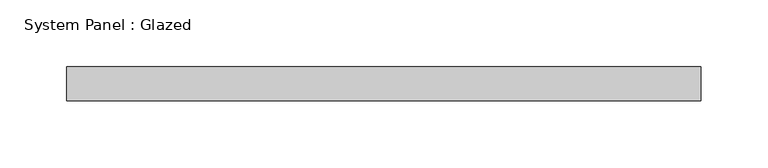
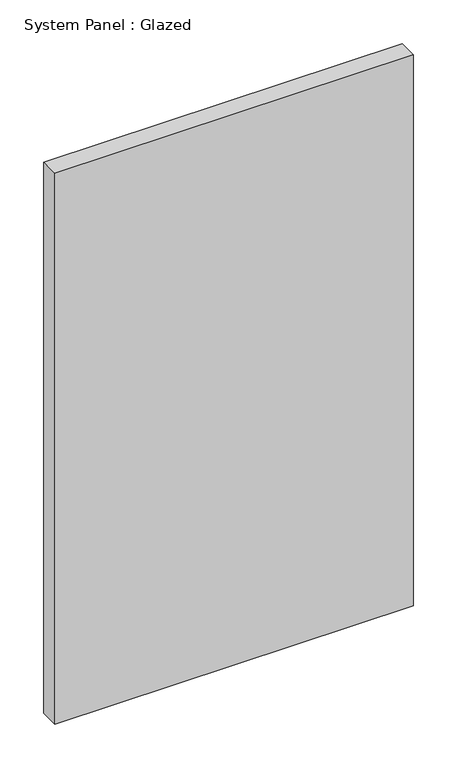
"""IFC4 building model written with IfcOpenShell, lengths in millimetres: plate geometry, System Panel : Glazed."""

import ifcopenshell
import ifcopenshell.guid

model = None  # the IFC model being written
_history = None  # IfcOwnerHistory: only IFC2X3 demands one
_inside = {}  # id of a spatial element -> (the spatial element, [elements in it])
_under = {}  # id of a project, library or spatial element -> (it, [spatial elements below it])
_declared = {}  # id of a project -> (the project, [libraries it declares])
_typed = {}  # id of a type object -> (the type object, [elements of that type])
_made_of = {}  # id of a material, layer set ... -> (it, [elements and type objects made of it])


def new_model(schema):
    """Start an empty IFC model of exactly this schema.

    Asked for "IFC4X3", IfcOpenShell would pick the latest addendum, in which some entities
    have other attributes; the version numbers below select the first issue.
    IFC2X3 requires an IfcOwnerHistory on every rooted entity: one is made here for all.
    """
    global model, _history
    if schema == "IFC4X3":
        model = ifcopenshell.file(schema_version=(4, 3, 0, 0))
    else:
        model = ifcopenshell.file(schema=schema)
    _inside.clear()
    _under.clear()
    _declared.clear()
    _typed.clear()
    _made_of.clear()
    _history = None
    if model.schema == "IFC2X3":
        org = make("IfcOrganization", Name="unknown")
        user = make(
            "IfcPersonAndOrganization",
            ThePerson=make("IfcPerson", FamilyName="unknown"),
            TheOrganization=org,
        )
        app = make(
            "IfcApplication",
            ApplicationDeveloper=org,
            Version="unknown",
            ApplicationFullName="unknown",
            ApplicationIdentifier="unknown",
        )
        _history = make(
            "IfcOwnerHistory",
            OwningUser=user,
            OwningApplication=app,
            ChangeAction="ADDED",
            CreationDate=0,
        )
    return model


def make(cls, **values):
    """One entity of the class cls with the attributes given. An attribute that is None is left unset."""
    return model.create_entity(
        cls, **{name: value for name, value in values.items() if value is not None}
    )


def rooted(cls, **values):
    """An entity with a GlobalId (a new one), such as an element, a storey or a relation."""
    return make(cls, GlobalId=ifcopenshell.guid.new(), OwnerHistory=_history, **values)


def si_unit(unit_type, name, prefix=None):
    """IfcSIUnit, for example si_unit("LENGTHUNIT", "METRE", prefix="MILLI")."""
    return make("IfcSIUnit", UnitType=unit_type, Prefix=prefix, Name=name)


def assignment(units):
    """IfcUnitAssignment: the units of a project."""
    return None if units is None else make("IfcUnitAssignment", Units=units)


def point(xyz):
    """IfcCartesianPoint."""
    return None if xyz is None else make("IfcCartesianPoint", Coordinates=xyz)


def direction(xyz):
    """IfcDirection."""
    return None if xyz is None else make("IfcDirection", DirectionRatios=xyz)


def frame(location, z_axis=None, x_axis=None):
    """IfcAxis2Placement3D, a coordinate frame: its origin and axes. An axis left out is left unset."""
    return make(
        "IfcAxis2Placement3D",
        Location=point(location),
        Axis=direction(z_axis),
        RefDirection=direction(x_axis),
    )


def origin():
    """The frame at (0, 0, 0) with its axes left unset."""
    return frame((0.0, 0.0, 0.0))


def origin_with_axes():
    """The frame at (0, 0, 0) with the z axis (0, 0, 1) and the x axis (1, 0, 0) written out."""
    return frame((0.0, 0.0, 0.0), z_axis=(0.0, 0.0, 1.0), x_axis=(1.0, 0.0, 0.0))


def place(relative_to, where):
    """IfcLocalPlacement: puts the frame where relative to a parent placement (None: the world)."""
    return make(
        "IfcLocalPlacement", PlacementRelTo=relative_to, RelativePlacement=where
    )


def context(
    kind, dimensions, precision=None, world=None, true_north=None, identifier=None
):
    """IfcGeometricRepresentationContext, for example the 3D "Model" context."""
    return make(
        "IfcGeometricRepresentationContext",
        ContextIdentifier=identifier,
        ContextType=kind,
        CoordinateSpaceDimension=dimensions,
        Precision=precision,
        WorldCoordinateSystem=world,
        TrueNorth=true_north,
    )


def project(units=None, contexts=None):
    """IfcProject with its units and contexts."""
    return rooted(
        "IfcProject",
        Name="project",
        RepresentationContexts=contexts,
        UnitsInContext=assignment(units),
    )


def spatial(cls, under=None, at=None, **own):
    """A site, building, storey or space (cls), placed at a placement, below another one or the project."""
    s = rooted(cls, ObjectPlacement=at, **own)
    if under is not None:
        _under.setdefault(under.id(), (under, []))[1].append(s)
    return s


def polyline(points):
    """IfcPolyline through the points."""
    return make("IfcPolyline", Points=[point(p) for p in points])


def outline(outer, holes=None, kind="AREA"):
    """IfcArbitraryClosedProfileDef: a profile drawn as a closed curve; with holes, ...WithVoids."""
    if holes is None:
        return make("IfcArbitraryClosedProfileDef", ProfileType=kind, OuterCurve=outer)
    return make(
        "IfcArbitraryProfileDefWithVoids",
        ProfileType=kind,
        OuterCurve=outer,
        InnerCurves=holes,
    )


def extrude(swept, where, along, depth):
    """IfcExtrudedAreaSolid: the profile swept, set in the frame where, extruded along a direction by depth."""
    return make(
        "IfcExtrudedAreaSolid",
        SweptArea=swept,
        Position=where,
        ExtrudedDirection=direction(along),
        Depth=depth,
    )


def shape(context_of_items, identifier, shape_type, items):
    """IfcShapeRepresentation: the items that make up one representation, for example the "Body"."""
    return make(
        "IfcShapeRepresentation",
        ContextOfItems=context_of_items,
        RepresentationIdentifier=identifier,
        RepresentationType=shape_type,
        Items=items,
    )


def source(mapping_origin, context_of_items, identifier, shape_type, items):
    """IfcRepresentationMap: a shape defined once, which mapped items show again and again."""
    return make(
        "IfcRepresentationMap",
        MappingOrigin=mapping_origin,
        MappedRepresentation=shape(context_of_items, identifier, shape_type, items),
    )


def transform(
    local_origin,
    x_axis=None,
    y_axis=None,
    z_axis=None,
    scale=None,
    scale2=None,
    scale3=None,
    uniform=True,
):
    """IfcCartesianTransformationOperator3D, or its non-uniform kind. x_axis, y_axis, z_axis: its Axis1, 2, 3."""
    if uniform:
        return make(
            "IfcCartesianTransformationOperator3D",
            Axis1=direction(x_axis),
            Axis2=direction(y_axis),
            LocalOrigin=point(local_origin),
            Scale=scale,
            Axis3=direction(z_axis),
        )
    return make(
        "IfcCartesianTransformationOperator3DnonUniform",
        Axis1=direction(x_axis),
        Axis2=direction(y_axis),
        LocalOrigin=point(local_origin),
        Scale=scale,
        Axis3=direction(z_axis),
        Scale2=scale2,
        Scale3=scale3,
    )


def mapped(mapping_source, mapping_target):
    """IfcMappedItem: shows the shape of a source again, moved by a transform."""
    return make(
        "IfcMappedItem", MappingSource=mapping_source, MappingTarget=mapping_target
    )


def made_of(thing, what):
    """Note that an element or type object is made of a material, layer set ...; save() writes the relation."""
    if what is not None:
        _made_of.setdefault(what.id(), (what, []))[1].append(thing)
    return thing


def element(
    cls,
    number,
    at=None,
    inside=None,
    cuts=None,
    type_object=None,
    material=None,
    context=None,
    identifier="Body",
    shape_type=None,
    held_by="IfcProductDefinitionShape",
    body=None,
    shapes=None,
    **own,
):
    """One element of the class cls, such as IfcWall. Its Tag is "e" and its number.

    at: its placement. inside: the storey or other place that contains it. cuts: it is an
    opening in that element (IfcRelVoidsElement). A single representation is given by context,
    identifier, shape_type and body (its items); several are given by shapes. held_by: the class
    of the entity that holds the representations. save() writes the other relations.
    """
    e = rooted(cls, Tag="e%d" % number, ObjectPlacement=at, **own)
    if body is not None:
        shapes = [shape(context, identifier, shape_type, body)]
    if shapes is not None:
        e.Representation = make(held_by, Representations=shapes)
    if inside is not None:
        _inside.setdefault(inside.id(), (inside, []))[1].append(e)
    if cuts is not None:
        rooted(
            "IfcRelVoidsElement", RelatingBuildingElement=cuts, RelatedOpeningElement=e
        )
    if type_object is not None:
        _typed.setdefault(type_object.id(), (type_object, []))[1].append(e)
    return made_of(e, material)


def aggregate(whole, parts):
    """IfcRelAggregates: a whole, such as a stair, and the parts it consists of."""
    return rooted("IfcRelAggregates", RelatingObject=whole, RelatedObjects=parts)


def save(model, path):
    """Write the relations noted so far, then the file.

    IfcRelAggregates (storeys below a building ...), IfcRelContainedInSpatialStructure (elements
    in a storey), IfcRelDefinesByType, IfcRelAssociatesMaterial and IfcRelDeclares: one each for
    every whole, place, type object, material and project.
    """
    for whole, parts in _under.values():
        aggregate(whole, parts)
    for where, things in _inside.values():
        rooted(
            "IfcRelContainedInSpatialStructure",
            RelatedElements=things,
            RelatingStructure=where,
        )
    for kind, things in _typed.values():
        rooted("IfcRelDefinesByType", RelatedObjects=things, RelatingType=kind)
    for what, things in _made_of.values():
        rooted("IfcRelAssociatesMaterial", RelatedObjects=things, RelatingMaterial=what)
    for by, libraries in _declared.values():
        rooted("IfcRelDeclares", RelatingContext=by, RelatedDefinitions=libraries)
    model.write(path)


def system_panel_glazed_fdbf88a6(model_context):
    return source(origin(), model_context, "Body", "SweptSolid", [
        extrude(outline(polyline([(237.1697515, -44.45), (-237.1697515, -44.45), (-237.1697515, -19.05), (237.1697515, -19.05), (237.1697515, -44.45)])), origin_with_axes(), (0.0, 0.0, 1.0), 770.6690025),
    ])


if __name__ == "__main__":
    model = new_model("IFC4")
    model_context = context("Model", 3, world=origin())
    ifc_project = project(units=[si_unit("LENGTHUNIT", "METRE", prefix="MILLI")], contexts=[model_context])
    site = spatial("IfcSite", under=ifc_project)
    building = spatial("IfcBuilding", under=site)
    placement = place(None, origin())
    system_panel_glazed_shape = system_panel_glazed_fdbf88a6(model_context)
    element("IfcPlate", 1, ObjectType="System Panel : Glazed", at=placement, inside=building, context=model_context, shape_type="MappedRepresentation", body=[
        mapped(system_panel_glazed_shape, transform((0.0, 0.0, 0.0), x_axis=(1.0, 0.0, 0.0), y_axis=(0.0, 1.0, 0.0), z_axis=(0.0, 0.0, 1.0))),
    ])
    save(model, "model.ifc")
